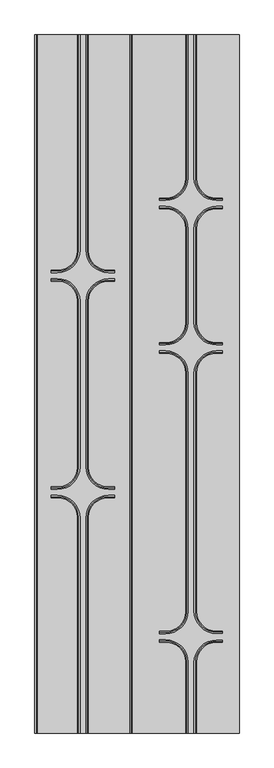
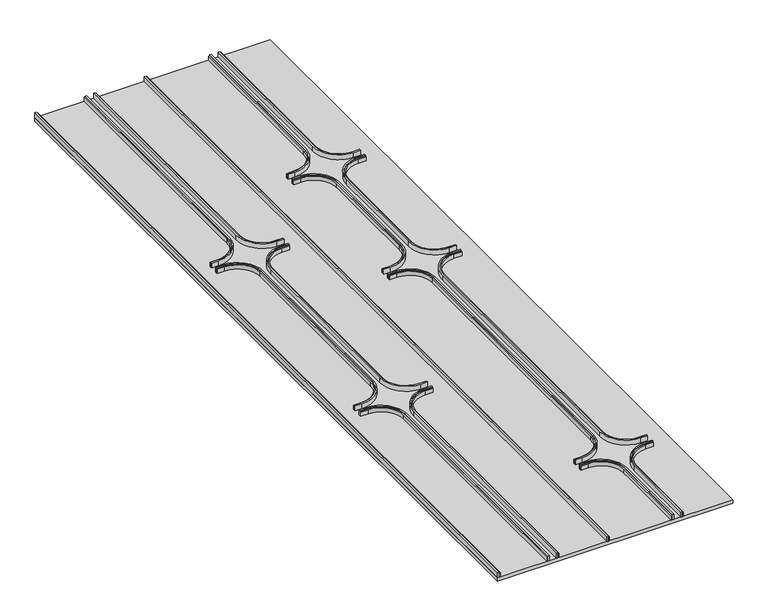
"""IFC4 building model written with IfcOpenShell, lengths in millimetres: proxy geometry, FilzFelt_Ion : Ion A."""

from ifc_helpers import new_model, si_unit, point, frame, frame_2d, origin, origin_with_axes, place, context, project, spatial, polyline, circle_curve, trimmed, segment, composite_curve, outline, extrude, source, transform, mapped, element, save


def specialty_equipment_f4d17212(model_context):
    return source(origin(), model_context, "Body", "SweptSolid", [
        extrude(outline(polyline([(-426.8, 0.0), (-431.8, 0.0), (-431.8, 2946.4), (-426.8, 2946.4), (-426.8, 0.0)])), frame((0.0, 0.0, 13.0), z_axis=(0.0, 0.0, 1.0), x_axis=(1.0, 0.0, 0.0)), (0.0, 0.0, 1.0), 19.0),
        extrude(outline(composite_curve([segment(polyline([(-246.3, 0.0), (-246.3, 909.4)]), True, "CONTINUOUS"), segment(trimmed(circle_curve(frame_2d((-335.2, 909.4)), 88.9), [point((-246.3, 909.4))], [point((-335.2, 998.3))], True, "CARTESIAN"), True, "CONTINUOUS"), segment(polyline([(-335.2, 998.3), (-361.95, 998.3), (-361.95, 1003.3), (-336.55, 1003.3)]), True, "CONTINUOUS"), segment(trimmed(circle_curve(frame_2d((-336.55, 908.05)), 95.25), [point((-336.55, 1003.3))], [point((-241.3, 908.05))], False, "CARTESIAN"), True, "CONTINUOUS"), segment(polyline([(-241.3, 908.05), (-241.3, 0.0), (-246.3, 0.0)]), True, "CONTINUOUS")], self_intersect=False)), frame((0.0, 0.0, 13.0), z_axis=(0.0, 0.0, 1.0), x_axis=(1.0, 0.0, 0.0)), (0.0, 0.0, 1.0), 19.0),
        extrude(outline(composite_curve([segment(polyline([(-210.9, 0.0), (-215.9, 0.0), (-215.9, 908.05)]), True, "CONTINUOUS"), segment(trimmed(circle_curve(frame_2d((-120.65, 908.05)), 95.25), [point((-215.9, 908.05))], [point((-120.65, 1003.3))], False, "CARTESIAN"), True, "CONTINUOUS"), segment(polyline([(-120.65, 1003.3), (-95.25, 1003.3), (-95.25, 998.3), (-122.0, 998.3)]), True, "CONTINUOUS"), segment(trimmed(circle_curve(frame_2d((-122.0, 909.4)), 88.9), [point((-122.0, 998.3))], [point((-210.9, 909.4))], True, "CARTESIAN"), True, "CONTINUOUS"), segment(polyline([(-210.9, 909.4), (-210.9, 0.0)]), True, "CONTINUOUS")], self_intersect=False)), frame((0.0, 0.0, 13.0), z_axis=(0.0, 0.0, 1.0), x_axis=(1.0, 0.0, 0.0)), (0.0, 0.0, 1.0), 19.0),
        extrude(outline(polyline([(-25.4, 0.0), (-30.4, 0.0), (-30.4, 2946.4), (-25.4, 2946.4), (-25.4, 0.0)])), frame((0.0, 0.0, 13.0), z_axis=(0.0, 0.0, 1.0), x_axis=(1.0, 0.0, 0.0)), (0.0, 0.0, 1.0), 19.0),
        extrude(outline(composite_curve([segment(polyline([(-241.3, 1822.45), (-241.3, 1123.95)]), True, "CONTINUOUS"), segment(trimmed(circle_curve(frame_2d((-336.55, 1123.95)), 95.25), [point((-241.3, 1123.95))], [point((-336.55, 1028.7))], False, "CARTESIAN"), True, "CONTINUOUS"), segment(polyline([(-336.55, 1028.7), (-361.95, 1028.7), (-361.95, 1033.7), (-335.2, 1033.7)]), True, "CONTINUOUS"), segment(trimmed(circle_curve(frame_2d((-335.2, 1122.6)), 88.9), [point((-335.2, 1033.7))], [point((-246.3, 1122.6))], True, "CARTESIAN"), True, "CONTINUOUS"), segment(polyline([(-246.3, 1122.6), (-246.3, 1823.8)]), True, "CONTINUOUS"), segment(trimmed(circle_curve(frame_2d((-335.2, 1823.8)), 88.9), [point((-246.3, 1823.8))], [point((-335.2, 1912.7))], True, "CARTESIAN"), True, "CONTINUOUS"), segment(polyline([(-335.2, 1912.7), (-361.95, 1912.7), (-361.95, 1917.7), (-336.55, 1917.7)]), True, "CONTINUOUS"), segment(trimmed(circle_curve(frame_2d((-336.55, 1822.45)), 95.25), [point((-336.55, 1917.7))], [point((-241.3, 1822.45))], False, "CARTESIAN"), True, "CONTINUOUS")], self_intersect=False)), frame((0.0, 0.0, 13.0), z_axis=(0.0, 0.0, 1.0), x_axis=(1.0, 0.0, 0.0)), (0.0, 0.0, 1.0), 19.0),
        extrude(outline(composite_curve([segment(trimmed(circle_curve(frame_2d((-120.65, 1821.1)), 95.25), [point((-215.9, 1821.1))], [point((-120.65, 1916.35))], False, "CARTESIAN"), True, "CONTINUOUS"), segment(polyline([(-120.65, 1916.35), (-95.25, 1916.35), (-95.25, 1911.35), (-122.0, 1911.35)]), True, "CONTINUOUS"), segment(trimmed(circle_curve(frame_2d((-122.0, 1822.45)), 88.9), [point((-122.0, 1911.35))], [point((-210.9, 1822.45))], True, "CARTESIAN"), True, "CONTINUOUS"), segment(polyline([(-210.9, 1822.45), (-210.9, 1122.6)]), True, "CONTINUOUS"), segment(trimmed(circle_curve(frame_2d((-122.0, 1122.6)), 88.9), [point((-210.9, 1122.6))], [point((-122.0, 1033.7))], True, "CARTESIAN"), True, "CONTINUOUS"), segment(polyline([(-122.0, 1033.7), (-95.25, 1033.7), (-95.25, 1028.7), (-120.65, 1028.7)]), True, "CONTINUOUS"), segment(trimmed(circle_curve(frame_2d((-120.65, 1123.95)), 95.25), [point((-120.65, 1028.7))], [point((-215.9, 1123.95))], False, "CARTESIAN"), True, "CONTINUOUS"), segment(polyline([(-215.9, 1123.95), (-215.9, 1821.1)]), True, "CONTINUOUS")], self_intersect=False)), frame((0.0, 0.0, 13.0), z_axis=(0.0, 0.0, 1.0), x_axis=(1.0, 0.0, 0.0)), (0.0, 0.0, 1.0), 19.0),
        extrude(outline(composite_curve([segment(polyline([(-122.0, 1948.1), (-95.25, 1948.1), (-95.25, 1943.1), (-120.65, 1943.1)]), True, "CONTINUOUS"), segment(trimmed(circle_curve(frame_2d((-120.65, 2038.35)), 95.25), [point((-120.65, 1943.1))], [point((-215.9, 2038.35))], False, "CARTESIAN"), True, "CONTINUOUS"), segment(polyline([(-215.9, 2038.35), (-215.9, 2946.4), (-210.9, 2946.4), (-210.9, 2037.0)]), True, "CONTINUOUS"), segment(trimmed(circle_curve(frame_2d((-122.0, 2037.0)), 88.9), [point((-210.9, 2037.0))], [point((-122.0, 1948.1))], True, "CARTESIAN"), True, "CONTINUOUS")], self_intersect=False)), frame((0.0, 0.0, 13.0), z_axis=(0.0, 0.0, 1.0), x_axis=(1.0, 0.0, 0.0)), (0.0, 0.0, 1.0), 19.0),
        extrude(outline(composite_curve([segment(trimmed(circle_curve(frame_2d((-335.2, 2037.0)), 88.9), [point((-335.2, 1948.1))], [point((-246.3, 2037.0))], True, "CARTESIAN"), True, "CONTINUOUS"), segment(polyline([(-246.3, 2037.0), (-246.3, 2946.4), (-241.3, 2946.4), (-241.3, 2038.35)]), True, "CONTINUOUS"), segment(trimmed(circle_curve(frame_2d((-336.55, 2038.35)), 95.25), [point((-241.3, 2038.35))], [point((-336.55, 1943.1))], False, "CARTESIAN"), True, "CONTINUOUS"), segment(polyline([(-336.55, 1943.1), (-361.95, 1943.1), (-361.95, 1948.1), (-335.2, 1948.1)]), True, "CONTINUOUS")], self_intersect=False)), frame((0.0, 0.0, 13.0), z_axis=(0.0, 0.0, 1.0), x_axis=(1.0, 0.0, 0.0)), (0.0, 0.0, 1.0), 19.0),
        extrude(outline(composite_curve([segment(polyline([(210.9, 0.0), (210.9, 299.8)]), True, "CONTINUOUS"), segment(trimmed(circle_curve(frame_2d((122.0, 299.8)), 88.9), [point((210.9, 299.8))], [point((122.0, 388.7))], True, "CARTESIAN"), True, "CONTINUOUS"), segment(polyline([(122.0, 388.7), (95.25, 388.7), (95.25, 393.7), (120.65, 393.7)]), True, "CONTINUOUS"), segment(trimmed(circle_curve(frame_2d((120.65, 298.45)), 95.25), [point((120.65, 393.7))], [point((215.9, 298.45))], False, "CARTESIAN"), True, "CONTINUOUS"), segment(polyline([(215.9, 298.45), (215.9, 0.0), (210.9, 0.0)]), True, "CONTINUOUS")], self_intersect=False)), frame((0.0, 0.0, 13.0), z_axis=(0.0, 0.0, 1.0), x_axis=(1.0, 0.0, 0.0)), (0.0, 0.0, 1.0), 19.0),
        extrude(outline(composite_curve([segment(polyline([(246.3, 0.0), (241.3, 0.0), (241.3, 297.1)]), True, "CONTINUOUS"), segment(trimmed(circle_curve(frame_2d((336.55, 297.1)), 95.25), [point((241.3, 297.1))], [point((336.55, 392.35))], False, "CARTESIAN"), True, "CONTINUOUS"), segment(polyline([(336.55, 392.35), (361.95, 392.35), (361.95, 387.35), (335.2, 387.35)]), True, "CONTINUOUS"), segment(trimmed(circle_curve(frame_2d((335.2, 298.45)), 88.9), [point((335.2, 387.35))], [point((246.3, 298.45))], True, "CARTESIAN"), True, "CONTINUOUS"), segment(polyline([(246.3, 298.45), (246.3, 0.0)]), True, "CONTINUOUS")], self_intersect=False)), frame((0.0, 0.0, 13.0), z_axis=(0.0, 0.0, 1.0), x_axis=(1.0, 0.0, 0.0)), (0.0, 0.0, 1.0), 19.0),
        extrude(outline(composite_curve([segment(polyline([(215.9, 1517.65), (215.9, 514.35)]), True, "CONTINUOUS"), segment(trimmed(circle_curve(frame_2d((120.65, 514.35)), 95.25), [point((215.9, 514.35))], [point((120.65, 419.1))], False, "CARTESIAN"), True, "CONTINUOUS"), segment(polyline([(120.65, 419.1), (95.25, 419.1), (95.25, 424.1), (122.0, 424.1)]), True, "CONTINUOUS"), segment(trimmed(circle_curve(frame_2d((122.0, 513.0)), 88.9), [point((122.0, 424.1))], [point((210.9, 513.0))], True, "CARTESIAN"), True, "CONTINUOUS"), segment(polyline([(210.9, 513.0), (210.9, 1519.0)]), True, "CONTINUOUS"), segment(trimmed(circle_curve(frame_2d((122.0, 1519.0)), 88.9), [point((210.9, 1519.0))], [point((122.0, 1607.9))], True, "CARTESIAN"), True, "CONTINUOUS"), segment(polyline([(122.0, 1607.9), (95.25, 1607.9), (95.25, 1612.9), (120.65, 1612.9)]), True, "CONTINUOUS"), segment(trimmed(circle_curve(frame_2d((120.65, 1517.65)), 95.25), [point((120.65, 1612.9))], [point((215.9, 1517.65))], False, "CARTESIAN"), True, "CONTINUOUS")], self_intersect=False)), frame((0.0, 0.0, 13.0), z_axis=(0.0, 0.0, 1.0), x_axis=(1.0, 0.0, 0.0)), (0.0, 0.0, 1.0), 19.0),
        extrude(outline(composite_curve([segment(polyline([(210.9, 1732.2), (210.9, 2128.6)]), True, "CONTINUOUS"), segment(trimmed(circle_curve(frame_2d((122.0, 2128.6)), 88.9), [point((210.9, 2128.6))], [point((122.0, 2217.5))], True, "CARTESIAN"), True, "CONTINUOUS"), segment(polyline([(122.0, 2217.5), (95.25, 2217.5), (95.25, 2222.5), (120.65, 2222.5)]), True, "CONTINUOUS"), segment(trimmed(circle_curve(frame_2d((120.65, 2127.25)), 95.25), [point((120.65, 2222.5))], [point((215.9, 2127.25))], False, "CARTESIAN"), True, "CONTINUOUS"), segment(polyline([(215.9, 2127.25), (215.9, 1733.55)]), True, "CONTINUOUS"), segment(trimmed(circle_curve(frame_2d((120.65, 1733.55)), 95.25), [point((215.9, 1733.55))], [point((120.65, 1638.3))], False, "CARTESIAN"), True, "CONTINUOUS"), segment(polyline([(120.65, 1638.3), (95.25, 1638.3), (95.25, 1643.3), (122.0, 1643.3)]), True, "CONTINUOUS"), segment(trimmed(circle_curve(frame_2d((122.0, 1732.2)), 88.9), [point((122.0, 1643.3))], [point((210.9, 1732.2))], True, "CARTESIAN"), True, "CONTINUOUS")], self_intersect=False)), frame((0.0, 0.0, 13.0), z_axis=(0.0, 0.0, 1.0), x_axis=(1.0, 0.0, 0.0)), (0.0, 0.0, 1.0), 19.0),
        extrude(outline(composite_curve([segment(trimmed(circle_curve(frame_2d((336.55, 1517.65)), 95.25), [point((241.3, 1517.65))], [point((336.55, 1612.9))], False, "CARTESIAN"), True, "CONTINUOUS"), segment(polyline([(336.55, 1612.9), (361.95, 1612.9), (361.95, 1607.9), (335.2, 1607.9)]), True, "CONTINUOUS"), segment(trimmed(circle_curve(frame_2d((335.2, 1519.0)), 88.9), [point((335.2, 1607.9))], [point((246.3, 1519.0))], True, "CARTESIAN"), True, "CONTINUOUS"), segment(polyline([(246.3, 1519.0), (246.3, 514.35)]), True, "CONTINUOUS"), segment(trimmed(circle_curve(frame_2d((335.2, 514.35)), 88.9), [point((246.3, 514.35))], [point((335.2, 425.45))], True, "CARTESIAN"), True, "CONTINUOUS"), segment(polyline([(335.2, 425.45), (361.95, 425.45), (361.95, 420.45), (336.55, 420.45)]), True, "CONTINUOUS"), segment(trimmed(circle_curve(frame_2d((336.55, 515.7)), 95.25), [point((336.55, 420.45))], [point((241.3, 515.7))], False, "CARTESIAN"), True, "CONTINUOUS"), segment(polyline([(241.3, 515.7), (241.3, 1517.65)]), True, "CONTINUOUS")], self_intersect=False)), frame((0.0, 0.0, 13.0), z_axis=(0.0, 0.0, 1.0), x_axis=(1.0, 0.0, 0.0)), (0.0, 0.0, 1.0), 19.0),
        extrude(outline(composite_curve([segment(trimmed(circle_curve(frame_2d((335.2, 1732.2)), 88.9), [point((246.3, 1732.2))], [point((335.2, 1643.3))], True, "CARTESIAN"), True, "CONTINUOUS"), segment(polyline([(335.2, 1643.3), (361.95, 1643.3), (361.95, 1638.3), (336.55, 1638.3)]), True, "CONTINUOUS"), segment(trimmed(circle_curve(frame_2d((336.55, 1733.55)), 95.25), [point((336.55, 1638.3))], [point((241.3, 1733.55))], False, "CARTESIAN"), True, "CONTINUOUS"), segment(polyline([(241.3, 1733.55), (241.3, 2127.25)]), True, "CONTINUOUS"), segment(trimmed(circle_curve(frame_2d((336.55, 2127.25)), 95.25), [point((241.3, 2127.25))], [point((336.55, 2222.5))], False, "CARTESIAN"), True, "CONTINUOUS"), segment(polyline([(336.55, 2222.5), (361.95, 2222.5), (361.95, 2217.5), (335.2, 2217.5)]), True, "CONTINUOUS"), segment(trimmed(circle_curve(frame_2d((335.2, 2128.6)), 88.9), [point((335.2, 2217.5))], [point((246.3, 2128.6))], True, "CARTESIAN"), True, "CONTINUOUS"), segment(polyline([(246.3, 2128.6), (246.3, 1732.2)]), True, "CONTINUOUS")], self_intersect=False)), frame((0.0, 0.0, 13.0), z_axis=(0.0, 0.0, 1.0), x_axis=(1.0, 0.0, 0.0)), (0.0, 0.0, 1.0), 19.0),
        extrude(outline(composite_curve([segment(polyline([(335.2, 2252.9), (361.95, 2252.9), (361.95, 2247.9), (336.55, 2247.9)]), True, "CONTINUOUS"), segment(trimmed(circle_curve(frame_2d((336.55, 2343.15)), 95.25), [point((336.55, 2247.9))], [point((241.3, 2343.15))], False, "CARTESIAN"), True, "CONTINUOUS"), segment(polyline([(241.3, 2343.15), (241.3, 2946.4), (246.3, 2946.4), (246.3, 2341.8)]), True, "CONTINUOUS"), segment(trimmed(circle_curve(frame_2d((335.2, 2341.8)), 88.9), [point((246.3, 2341.8))], [point((335.2, 2252.9))], True, "CARTESIAN"), True, "CONTINUOUS")], self_intersect=False)), frame((0.0, 0.0, 13.0), z_axis=(0.0, 0.0, 1.0), x_axis=(1.0, 0.0, 0.0)), (0.0, 0.0, 1.0), 19.0),
        extrude(outline(composite_curve([segment(trimmed(circle_curve(frame_2d((122.0, 2341.8)), 88.9), [point((122.0, 2252.9))], [point((210.9, 2341.8))], True, "CARTESIAN"), True, "CONTINUOUS"), segment(polyline([(210.9, 2341.8), (210.9, 2946.4), (215.9, 2946.4), (215.9, 2343.15)]), True, "CONTINUOUS"), segment(trimmed(circle_curve(frame_2d((120.65, 2343.15)), 95.25), [point((215.9, 2343.15))], [point((120.65, 2247.9))], False, "CARTESIAN"), True, "CONTINUOUS"), segment(polyline([(120.65, 2247.9), (95.25, 2247.9), (95.25, 2252.9), (122.0, 2252.9)]), True, "CONTINUOUS")], self_intersect=False)), frame((0.0, 0.0, 13.0), z_axis=(0.0, 0.0, 1.0), x_axis=(1.0, 0.0, 0.0)), (0.0, 0.0, 1.0), 19.0),
        extrude(outline(polyline([(-421.8, 2946.4), (-421.8, 0.0), (-426.8, 0.0), (-426.8, 2946.4), (-421.8, 2946.4)])), frame((0.0, 0.0, 13.0), z_axis=(0.0, 0.0, 1.0), x_axis=(1.0, 0.0, 0.0)), (0.0, 0.0, 1.0), 16.0),
        extrude(outline(composite_curve([segment(trimmed(circle_curve(frame_2d((-335.2, 2037.0)), 88.9), [point((-246.3, 2037.0))], [point((-335.2, 1948.1))], False, "CARTESIAN"), True, "CONTINUOUS"), segment(polyline([(-335.2, 1948.1), (-361.95, 1948.1), (-361.95, 1953.1), (-333.85, 1953.1)]), True, "CONTINUOUS"), segment(trimmed(circle_curve(frame_2d((-333.85, 2035.65)), 82.55), [point((-333.85, 1953.1))], [point((-251.3, 2035.65))], True, "CARTESIAN"), True, "CONTINUOUS"), segment(polyline([(-251.3, 2035.65), (-251.3, 2946.4), (-246.3, 2946.4), (-246.3, 2037.0)]), True, "CONTINUOUS")], self_intersect=False)), frame((0.0, 0.0, 13.0), z_axis=(0.0, 0.0, 1.0), x_axis=(1.0, 0.0, 0.0)), (0.0, 0.0, 1.0), 16.0),
        extrude(outline(composite_curve([segment(trimmed(circle_curve(frame_2d((-335.2, 1823.8)), 88.9), [point((-335.2, 1912.7))], [point((-246.3, 1823.8))], False, "CARTESIAN"), True, "CONTINUOUS"), segment(polyline([(-246.3, 1823.8), (-246.3, 1122.6)]), True, "CONTINUOUS"), segment(trimmed(circle_curve(frame_2d((-335.2, 1122.6)), 88.9), [point((-246.3, 1122.6))], [point((-335.2, 1033.7))], False, "CARTESIAN"), True, "CONTINUOUS"), segment(polyline([(-335.2, 1033.7), (-361.95, 1033.7), (-361.95, 1038.7), (-333.85, 1038.7)]), True, "CONTINUOUS"), segment(trimmed(circle_curve(frame_2d((-333.85, 1121.25)), 82.55), [point((-333.85, 1038.7))], [point((-251.3, 1121.25))], True, "CARTESIAN"), True, "CONTINUOUS"), segment(polyline([(-251.3, 1121.25), (-251.3, 1825.15)]), True, "CONTINUOUS"), segment(trimmed(circle_curve(frame_2d((-333.85, 1825.15)), 82.55), [point((-251.3, 1825.15))], [point((-333.85, 1907.7))], True, "CARTESIAN"), True, "CONTINUOUS"), segment(polyline([(-333.85, 1907.7), (-361.95, 1907.7), (-361.95, 1912.7), (-335.2, 1912.7)]), True, "CONTINUOUS")], self_intersect=False)), frame((0.0, 0.0, 13.0), z_axis=(0.0, 0.0, 1.0), x_axis=(1.0, 0.0, 0.0)), (0.0, 0.0, 1.0), 16.0),
        extrude(outline(composite_curve([segment(trimmed(circle_curve(frame_2d((-335.2, 909.4)), 88.9), [point((-335.2, 998.3))], [point((-246.3, 909.4))], False, "CARTESIAN"), True, "CONTINUOUS"), segment(polyline([(-246.3, 909.4), (-246.3, 0.0), (-251.3, 0.0), (-251.3, 910.75)]), True, "CONTINUOUS"), segment(trimmed(circle_curve(frame_2d((-333.85, 910.75)), 82.55), [point((-251.3, 910.75))], [point((-333.85, 993.3))], True, "CARTESIAN"), True, "CONTINUOUS"), segment(polyline([(-333.85, 993.3), (-361.95, 993.3), (-361.95, 998.3), (-335.2, 998.3)]), True, "CONTINUOUS")], self_intersect=False)), frame((0.0, 0.0, 13.0), z_axis=(0.0, 0.0, 1.0), x_axis=(1.0, 0.0, 0.0)), (0.0, 0.0, 1.0), 16.0),
        extrude(outline(composite_curve([segment(trimmed(circle_curve(frame_2d((122.0, 2341.8)), 88.9), [point((210.9, 2341.8))], [point((122.0, 2252.9))], False, "CARTESIAN"), True, "CONTINUOUS"), segment(polyline([(122.0, 2252.9), (95.25, 2252.9), (95.25, 2257.9), (123.35, 2257.9)]), True, "CONTINUOUS"), segment(trimmed(circle_curve(frame_2d((123.35, 2340.45)), 82.55), [point((123.35, 2257.9))], [point((205.9, 2340.45))], True, "CARTESIAN"), True, "CONTINUOUS"), segment(polyline([(205.9, 2340.45), (205.9, 2946.4), (210.9, 2946.4), (210.9, 2341.8)]), True, "CONTINUOUS")], self_intersect=False)), frame((0.0, 0.0, 13.0), z_axis=(0.0, 0.0, 1.0), x_axis=(1.0, 0.0, 0.0)), (0.0, 0.0, 1.0), 16.0),
        extrude(outline(composite_curve([segment(trimmed(circle_curve(frame_2d((122.0, 2128.6)), 88.9), [point((122.0, 2217.5))], [point((210.9, 2128.6))], False, "CARTESIAN"), True, "CONTINUOUS"), segment(polyline([(210.9, 2128.6), (210.9, 1732.2)]), True, "CONTINUOUS"), segment(trimmed(circle_curve(frame_2d((122.0, 1732.2)), 88.9), [point((210.9, 1732.2))], [point((122.0, 1643.3))], False, "CARTESIAN"), True, "CONTINUOUS"), segment(polyline([(122.0, 1643.3), (95.25, 1643.3), (95.25, 1648.3), (123.35, 1648.3)]), True, "CONTINUOUS"), segment(trimmed(circle_curve(frame_2d((123.35, 1730.85)), 82.55), [point((123.35, 1648.3))], [point((205.9, 1730.85))], True, "CARTESIAN"), True, "CONTINUOUS"), segment(polyline([(205.9, 1730.85), (205.9, 2129.95)]), True, "CONTINUOUS"), segment(trimmed(circle_curve(frame_2d((123.35, 2129.95)), 82.55), [point((205.9, 2129.95))], [point((123.35, 2212.5))], True, "CARTESIAN"), True, "CONTINUOUS"), segment(polyline([(123.35, 2212.5), (95.25, 2212.5), (95.25, 2217.5), (122.0, 2217.5)]), True, "CONTINUOUS")], self_intersect=False)), frame((0.0, 0.0, 13.0), z_axis=(0.0, 0.0, 1.0), x_axis=(1.0, 0.0, 0.0)), (0.0, 0.0, 1.0), 16.0),
        extrude(outline(composite_curve([segment(trimmed(circle_curve(frame_2d((122.0, 513.0)), 88.9), [point((210.9, 513.0))], [point((122.0, 424.1))], False, "CARTESIAN"), True, "CONTINUOUS"), segment(polyline([(122.0, 424.1), (95.25, 424.1), (95.25, 429.1), (123.35, 429.1)]), True, "CONTINUOUS"), segment(trimmed(circle_curve(frame_2d((123.35, 511.65)), 82.55), [point((123.35, 429.1))], [point((205.9, 511.65))], True, "CARTESIAN"), True, "CONTINUOUS"), segment(polyline([(205.9, 511.65), (205.9, 1520.35)]), True, "CONTINUOUS"), segment(trimmed(circle_curve(frame_2d((123.35, 1520.35)), 82.55), [point((205.9, 1520.35))], [point((123.35, 1602.9))], True, "CARTESIAN"), True, "CONTINUOUS"), segment(polyline([(123.35, 1602.9), (95.25, 1602.9), (95.25, 1607.9), (122.0, 1607.9)]), True, "CONTINUOUS"), segment(trimmed(circle_curve(frame_2d((122.0, 1519.0)), 88.9), [point((122.0, 1607.9))], [point((210.9, 1519.0))], False, "CARTESIAN"), True, "CONTINUOUS"), segment(polyline([(210.9, 1519.0), (210.9, 513.0)]), True, "CONTINUOUS")], self_intersect=False)), frame((0.0, 0.0, 13.0), z_axis=(0.0, 0.0, 1.0), x_axis=(1.0, 0.0, 0.0)), (0.0, 0.0, 1.0), 16.0),
        extrude(outline(composite_curve([segment(trimmed(circle_curve(frame_2d((122.0, 299.8)), 88.9), [point((122.0, 388.7))], [point((210.9, 299.8))], False, "CARTESIAN"), True, "CONTINUOUS"), segment(polyline([(210.9, 299.8), (210.9, 0.0), (205.9, 0.0), (205.9, 301.15)]), True, "CONTINUOUS"), segment(trimmed(circle_curve(frame_2d((123.35, 301.15)), 82.55), [point((205.9, 301.15))], [point((123.35, 383.7))], True, "CARTESIAN"), True, "CONTINUOUS"), segment(polyline([(123.35, 383.7), (95.25, 383.7), (95.25, 388.7), (122.0, 388.7)]), True, "CONTINUOUS")], self_intersect=False)), frame((0.0, 0.0, 13.0), z_axis=(0.0, 0.0, 1.0), x_axis=(1.0, 0.0, 0.0)), (0.0, 0.0, 1.0), 16.0),
        extrude(outline(polyline([(-20.4, 0.0), (-25.4, 0.0), (-25.4, 2946.4), (-20.4, 2946.4), (-20.4, 0.0)])), frame((0.0, 0.0, 13.0), z_axis=(0.0, 0.0, 1.0), x_axis=(1.0, 0.0, 0.0)), (0.0, 0.0, 1.0), 16.0),
        extrude(outline(composite_curve([segment(polyline([(246.3, 2341.8), (246.3, 2946.4), (251.3, 2946.4), (251.3, 2340.45)]), True, "CONTINUOUS"), segment(trimmed(circle_curve(frame_2d((333.85, 2340.45)), 82.55), [point((251.3, 2340.45))], [point((333.85, 2257.9))], True, "CARTESIAN"), True, "CONTINUOUS"), segment(polyline([(333.85, 2257.9), (361.95, 2257.9), (361.95, 2252.9), (335.2, 2252.9)]), True, "CONTINUOUS"), segment(trimmed(circle_curve(frame_2d((335.2, 2341.8)), 88.9), [point((335.2, 2252.9))], [point((246.3, 2341.8))], False, "CARTESIAN"), True, "CONTINUOUS")], self_intersect=False)), frame((0.0, 0.0, 13.0), z_axis=(0.0, 0.0, 1.0), x_axis=(1.0, 0.0, 0.0)), (0.0, 0.0, 1.0), 16.0),
        extrude(outline(composite_curve([segment(polyline([(335.2, 2217.5), (361.95, 2217.5), (361.95, 2212.5), (333.85, 2212.5)]), True, "CONTINUOUS"), segment(trimmed(circle_curve(frame_2d((333.85, 2129.95)), 82.55), [point((333.85, 2212.5))], [point((251.3, 2129.95))], True, "CARTESIAN"), True, "CONTINUOUS"), segment(polyline([(251.3, 2129.95), (251.3, 1730.85)]), True, "CONTINUOUS"), segment(trimmed(circle_curve(frame_2d((333.85, 1730.85)), 82.55), [point((251.3, 1730.85))], [point((333.85, 1648.3))], True, "CARTESIAN"), True, "CONTINUOUS"), segment(polyline([(333.85, 1648.3), (361.95, 1648.3), (361.95, 1643.3), (335.2, 1643.3)]), True, "CONTINUOUS"), segment(trimmed(circle_curve(frame_2d((335.2, 1732.2)), 88.9), [point((335.2, 1643.3))], [point((246.3, 1732.2))], False, "CARTESIAN"), True, "CONTINUOUS"), segment(polyline([(246.3, 1732.2), (246.3, 2128.6)]), True, "CONTINUOUS"), segment(trimmed(circle_curve(frame_2d((335.2, 2128.6)), 88.9), [point((246.3, 2128.6))], [point((335.2, 2217.5))], False, "CARTESIAN"), True, "CONTINUOUS")], self_intersect=False)), frame((0.0, 0.0, 13.0), z_axis=(0.0, 0.0, 1.0), x_axis=(1.0, 0.0, 0.0)), (0.0, 0.0, 1.0), 16.0),
        extrude(outline(composite_curve([segment(polyline([(246.3, 514.35), (246.3, 1519.0)]), True, "CONTINUOUS"), segment(trimmed(circle_curve(frame_2d((335.2, 1519.0)), 88.9), [point((246.3, 1519.0))], [point((335.2, 1607.9))], False, "CARTESIAN"), True, "CONTINUOUS"), segment(polyline([(335.2, 1607.9), (361.95, 1607.9), (361.95, 1602.9), (333.85, 1602.9)]), True, "CONTINUOUS"), segment(trimmed(circle_curve(frame_2d((333.85, 1520.35)), 82.55), [point((333.85, 1602.9))], [point((251.3, 1520.35))], True, "CARTESIAN"), True, "CONTINUOUS"), segment(polyline([(251.3, 1520.35), (251.3, 513.0)]), True, "CONTINUOUS"), segment(trimmed(circle_curve(frame_2d((333.85, 513.0)), 82.55), [point((251.3, 513.0))], [point((333.85, 430.45))], True, "CARTESIAN"), True, "CONTINUOUS"), segment(polyline([(333.85, 430.45), (361.95, 430.45), (361.95, 425.45), (335.2, 425.45)]), True, "CONTINUOUS"), segment(trimmed(circle_curve(frame_2d((335.2, 514.35)), 88.9), [point((335.2, 425.45))], [point((246.3, 514.35))], False, "CARTESIAN"), True, "CONTINUOUS")], self_intersect=False)), frame((0.0, 0.0, 13.0), z_axis=(0.0, 0.0, 1.0), x_axis=(1.0, 0.0, 0.0)), (0.0, 0.0, 1.0), 16.0),
        extrude(outline(composite_curve([segment(polyline([(335.2, 387.35), (361.95, 387.35), (361.95, 382.35), (333.85, 382.35)]), True, "CONTINUOUS"), segment(trimmed(circle_curve(frame_2d((333.85, 299.8)), 82.55), [point((333.85, 382.35))], [point((251.3, 299.8))], True, "CARTESIAN"), True, "CONTINUOUS"), segment(polyline([(251.3, 299.8), (251.3, 0.0), (246.3, 0.0), (246.3, 298.45)]), True, "CONTINUOUS"), segment(trimmed(circle_curve(frame_2d((335.2, 298.45)), 88.9), [point((246.3, 298.45))], [point((335.2, 387.35))], False, "CARTESIAN"), True, "CONTINUOUS")], self_intersect=False)), frame((0.0, 0.0, 13.0), z_axis=(0.0, 0.0, 1.0), x_axis=(1.0, 0.0, 0.0)), (0.0, 0.0, 1.0), 16.0),
        extrude(outline(composite_curve([segment(polyline([(-210.9, 2037.0), (-210.9, 2946.4), (-205.9, 2946.4), (-205.9, 2035.65)]), True, "CONTINUOUS"), segment(trimmed(circle_curve(frame_2d((-123.35, 2035.65)), 82.55), [point((-205.9, 2035.65))], [point((-123.35, 1953.1))], True, "CARTESIAN"), True, "CONTINUOUS"), segment(polyline([(-123.35, 1953.1), (-95.25, 1953.1), (-95.25, 1948.1), (-122.0, 1948.1)]), True, "CONTINUOUS"), segment(trimmed(circle_curve(frame_2d((-122.0, 2037.0)), 88.9), [point((-122.0, 1948.1))], [point((-210.9, 2037.0))], False, "CARTESIAN"), True, "CONTINUOUS")], self_intersect=False)), frame((0.0, 0.0, 13.0), z_axis=(0.0, 0.0, 1.0), x_axis=(1.0, 0.0, 0.0)), (0.0, 0.0, 1.0), 16.0),
        extrude(outline(composite_curve([segment(polyline([(-122.0, 1911.35), (-95.25, 1911.35), (-95.25, 1906.35), (-123.35, 1906.35)]), True, "CONTINUOUS"), segment(trimmed(circle_curve(frame_2d((-123.35, 1823.8)), 82.55), [point((-123.35, 1906.35))], [point((-205.9, 1823.8))], True, "CARTESIAN"), True, "CONTINUOUS"), segment(polyline([(-205.9, 1823.8), (-205.9, 1121.25)]), True, "CONTINUOUS"), segment(trimmed(circle_curve(frame_2d((-123.35, 1121.25)), 82.55), [point((-205.9, 1121.25))], [point((-123.35, 1038.7))], True, "CARTESIAN"), True, "CONTINUOUS"), segment(polyline([(-123.35, 1038.7), (-95.25, 1038.7), (-95.25, 1033.7), (-122.0, 1033.7)]), True, "CONTINUOUS"), segment(trimmed(circle_curve(frame_2d((-122.0, 1122.6)), 88.9), [point((-122.0, 1033.7))], [point((-210.9, 1122.6))], False, "CARTESIAN"), True, "CONTINUOUS"), segment(polyline([(-210.9, 1122.6), (-210.9, 1822.45)]), True, "CONTINUOUS"), segment(trimmed(circle_curve(frame_2d((-122.0, 1822.45)), 88.9), [point((-210.9, 1822.45))], [point((-122.0, 1911.35))], False, "CARTESIAN"), True, "CONTINUOUS")], self_intersect=False)), frame((0.0, 0.0, 13.0), z_axis=(0.0, 0.0, 1.0), x_axis=(1.0, 0.0, 0.0)), (0.0, 0.0, 1.0), 16.0),
        extrude(outline(composite_curve([segment(polyline([(-122.0, 998.3), (-95.25, 998.3), (-95.25, 993.3), (-123.35, 993.3)]), True, "CONTINUOUS"), segment(trimmed(circle_curve(frame_2d((-123.35, 910.75)), 82.55), [point((-123.35, 993.3))], [point((-205.9, 910.75))], True, "CARTESIAN"), True, "CONTINUOUS"), segment(polyline([(-205.9, 910.75), (-205.9, 0.0), (-210.9, 0.0), (-210.9, 909.4)]), True, "CONTINUOUS"), segment(trimmed(circle_curve(frame_2d((-122.0, 909.4)), 88.9), [point((-210.9, 909.4))], [point((-122.0, 998.3))], False, "CARTESIAN"), True, "CONTINUOUS")], self_intersect=False)), frame((0.0, 0.0, 13.0), z_axis=(0.0, 0.0, 1.0), x_axis=(1.0, 0.0, 0.0)), (0.0, 0.0, 1.0), 16.0),
        extrude(outline(polyline([(-431.8, 0.0), (-431.8, 2946.4), (431.8, 2946.4), (431.8, 0.0), (-431.8, 0.0)])), origin_with_axes(), (0.0, 0.0, 1.0), 13.0),
    ])


if __name__ == "__main__":
    model = new_model("IFC4")
    model_context = context("Model", 3, world=origin())
    ifc_project = project(units=[si_unit("LENGTHUNIT", "METRE", prefix="MILLI")], contexts=[model_context])
    site = spatial("IfcSite", under=ifc_project)
    building = spatial("IfcBuilding", under=site)
    placement = place(None, origin())
    specialty_equipment_shape = specialty_equipment_f4d17212(model_context)
    element("IfcBuildingElementProxy", 1, Name="FilzFelt_Ion : Ion A", ObjectType="FilzFelt_Ion : Ion A", at=placement, inside=building, context=model_context, shape_type="MappedRepresentation", body=[
        mapped(specialty_equipment_shape, transform((0.0, 0.0, 0.0), x_axis=(1.0, 0.0, 0.0), y_axis=(0.0, 1.0, 0.0), z_axis=(0.0, 0.0, 1.0))),
    ])
    save(model, "model.ifc")
